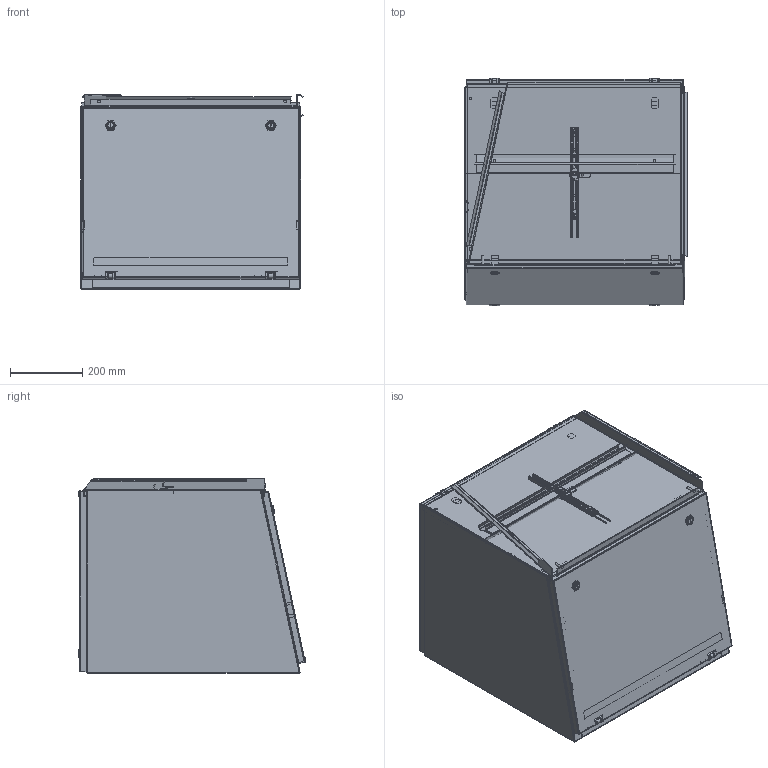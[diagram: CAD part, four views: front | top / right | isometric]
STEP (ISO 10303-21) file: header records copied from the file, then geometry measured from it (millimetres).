
FILE_DESCRIPTION( ( 'Unknown' ), '1' );
FILE_NAME( 'Q:/2000 SERIES/TURRET UNITS/WEB DRAWINGS/STEP/2CST202443.stp', 'Unknown', ( 'Unknown' ), ( 'Unknown' ), 'XStep 1.0', 'Unknown', ' ' );
FILE_SCHEMA( ( 'CONFIG_CONTROL_DESIGN' ) );
Length unit declared in the file: millimetre
Products named in the file (46): Assem1; Assem2; Assem3; Assem4; Assem5; Assem6; Assem7; Assem8; Assem9; Assem10; Assem11; Assem12; 1; 2; 3; 4; 5; 6; 7; 8; 9; 10; 11; 12; 13; 14; 15; 16; 17; 18; 19; 20; 21; 22; 23; 24; 25; 26; 27; 28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
Bounding box: 616.82 x 631.61 x 538.94 mm (x, y, z)
Volume: 11923175.2 mm3; surface area: 13119675.4 mm2
Topology: 151 solids, 151 shells, 3411 faces, 8193 edges, 5204 vertices
Faces by surface type: plane 2251, cylinder 879, bspline 224, cone 30, torus 21, sphere 6
Full cylindrical faces by diameter (mm): 3.175 x12, 4.763 x15, 4.826 x6, 5 x12, 5.537 x10, 5.969 x6, 6 x6, 6.096 x6, 6.299 x4, 6.35 x44, 7.137 x19, 7.925 x4, 7.938 x32, 8.331 x4, 9.804 x5, 9.83 x12, 9.931 x7, 10.312 x4, 11.1 x4, 12.7 x18, 12.751 x4, 13.335 x6, 15.875 x6, 16.002 x6, 19.5 x6, 19.939 x6, 25.4 x6
Entity records: 28602 total; most frequent: CARTESIAN_POINT 7206, ORIENTED_EDGE 3896, DIRECTION 3890, EDGE_CURVE 1948, LINE 1360, VECTOR 1360, VERTEX_POINT 1269, AXIS2_PLACEMENT_3D 1265
